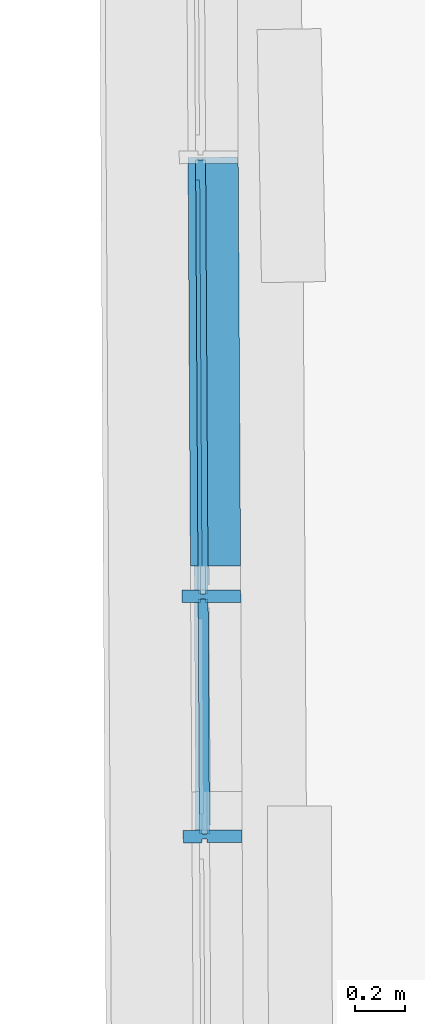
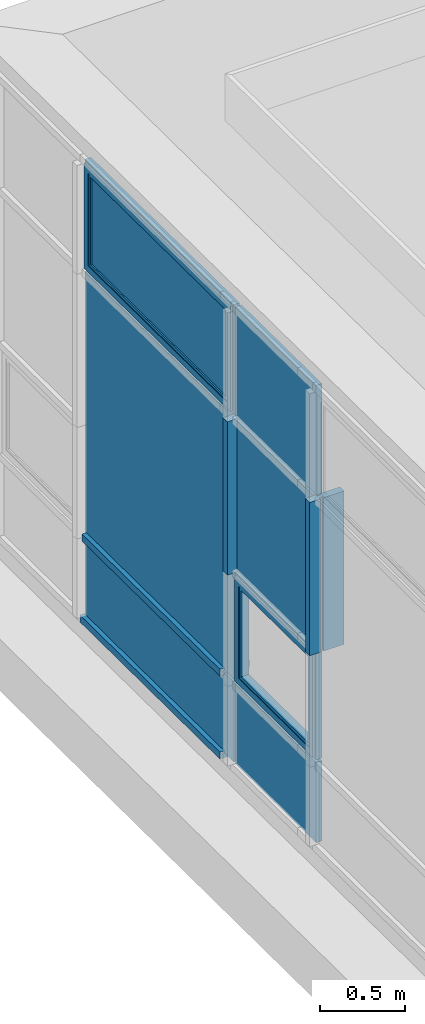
# One storey, part 100 of 158: 12 building element parts, 1 element without a shape of its own.
"""IFC2X3 building model written with IfcOpenShell, lengths in metres."""

import ifcopenshell
import ifcopenshell.guid

model = None  # the IFC model being written
_history = None  # IfcOwnerHistory: only IFC2X3 demands one
_inside = {}  # id of a spatial element -> (the spatial element, [elements in it])
_under = {}  # id of a project, library or spatial element -> (it, [spatial elements below it])
_declared = {}  # id of a project -> (the project, [libraries it declares])
_typed = {}  # id of a type object -> (the type object, [elements of that type])
_made_of = {}  # id of a material, layer set ... -> (it, [elements and type objects made of it])


def new_model(schema):
    """Start an empty IFC model of exactly this schema.

    Asked for "IFC4X3", IfcOpenShell would pick the latest addendum, in which some entities
    have other attributes; the version numbers below select the first issue.
    IFC2X3 requires an IfcOwnerHistory on every rooted entity: one is made here for all.
    """
    global model, _history
    if schema == "IFC4X3":
        model = ifcopenshell.file(schema_version=(4, 3, 0, 0))
    else:
        model = ifcopenshell.file(schema=schema)
    _inside.clear()
    _under.clear()
    _declared.clear()
    _typed.clear()
    _made_of.clear()
    _history = None
    if model.schema == "IFC2X3":
        org = make("IfcOrganization", Name="unknown")
        user = make(
            "IfcPersonAndOrganization",
            ThePerson=make("IfcPerson", FamilyName="unknown"),
            TheOrganization=org,
        )
        app = make(
            "IfcApplication",
            ApplicationDeveloper=org,
            Version="unknown",
            ApplicationFullName="unknown",
            ApplicationIdentifier="unknown",
        )
        _history = make(
            "IfcOwnerHistory",
            OwningUser=user,
            OwningApplication=app,
            ChangeAction="ADDED",
            CreationDate=0,
        )
    return model


def make(cls, **values):
    """One entity of the class cls with the attributes given. An attribute that is None is left unset."""
    return model.create_entity(
        cls, **{name: value for name, value in values.items() if value is not None}
    )


def entity(cls, *values):
    """Any entity or typed value of the class cls, its attributes in the order of the schema. None: left unset."""
    e = model.create_entity(cls)
    for i, value in enumerate(values):
        if value is not None:
            e[i] = value
    return e


def rooted(cls, **values):
    """An entity with a GlobalId (a new one), such as an element, a storey or a relation."""
    return make(cls, GlobalId=ifcopenshell.guid.new(), OwnerHistory=_history, **values)


def si_unit(unit_type, name, prefix=None):
    """IfcSIUnit, for example si_unit("LENGTHUNIT", "METRE", prefix="MILLI")."""
    return make("IfcSIUnit", UnitType=unit_type, Prefix=prefix, Name=name)


def converted_unit(unit_type, name, factor, base, dimensions=None, offset=None):
    """IfcConversionBasedUnit, such as the inch: factor (a typed value) times the base unit."""
    return make(
        "IfcConversionBasedUnit"
        if offset is None
        else "IfcConversionBasedUnitWithOffset",
        ConversionOffset=offset,
        Dimensions=None
        if dimensions is None
        else entity("IfcDimensionalExponents", *dimensions),
        UnitType=unit_type,
        Name=name,
        ConversionFactor=make(
            "IfcMeasureWithUnit", ValueComponent=factor, UnitComponent=base
        ),
    )


def derived_unit(unit_type, elements):
    """IfcDerivedUnit: a product of units, each with its exponent."""
    return make(
        "IfcDerivedUnit",
        Elements=[
            make("IfcDerivedUnitElement", Unit=unit, Exponent=power)
            for unit, power in elements
        ],
        UnitType=unit_type,
    )


def money_unit(currency):
    """IfcMonetaryUnit."""
    return make("IfcMonetaryUnit", Currency=currency)


def assignment(units):
    """IfcUnitAssignment: the units of a project."""
    return None if units is None else make("IfcUnitAssignment", Units=units)


def point(xyz):
    """IfcCartesianPoint."""
    return None if xyz is None else make("IfcCartesianPoint", Coordinates=xyz)


def direction(xyz):
    """IfcDirection."""
    return None if xyz is None else make("IfcDirection", DirectionRatios=xyz)


def frame(location, z_axis=None, x_axis=None):
    """IfcAxis2Placement3D, a coordinate frame: its origin and axes. An axis left out is left unset."""
    return make(
        "IfcAxis2Placement3D",
        Location=point(location),
        Axis=direction(z_axis),
        RefDirection=direction(x_axis),
    )


def origin_with_axes():
    """The frame at (0, 0, 0) with the z axis (0, 0, 1) and the x axis (1, 0, 0) written out."""
    return frame((0.0, 0.0, 0.0), z_axis=(0.0, 0.0, 1.0), x_axis=(1.0, 0.0, 0.0))


def place(relative_to, where):
    """IfcLocalPlacement: puts the frame where relative to a parent placement (None: the world)."""
    return make(
        "IfcLocalPlacement", PlacementRelTo=relative_to, RelativePlacement=where
    )


def context(
    kind, dimensions, precision=None, world=None, true_north=None, identifier=None
):
    """IfcGeometricRepresentationContext, for example the 3D "Model" context."""
    return make(
        "IfcGeometricRepresentationContext",
        ContextIdentifier=identifier,
        ContextType=kind,
        CoordinateSpaceDimension=dimensions,
        Precision=precision,
        WorldCoordinateSystem=world,
        TrueNorth=true_north,
    )


def subcontext(parent, identifier, kind, view, scale=None):
    """IfcGeometricRepresentationSubContext, for example "Body" below "Model"."""
    return make(
        "IfcGeometricRepresentationSubContext",
        ContextIdentifier=identifier,
        ContextType=kind,
        ParentContext=parent,
        TargetScale=scale,
        TargetView=view,
    )


def project(units=None, contexts=None):
    """IfcProject with its units and contexts."""
    return rooted(
        "IfcProject",
        Name="project",
        RepresentationContexts=contexts,
        UnitsInContext=assignment(units),
    )


def spatial(cls, under=None, at=None, **own):
    """A site, building, storey or space (cls), placed at a placement, below another one or the project."""
    s = rooted(cls, ObjectPlacement=at, **own)
    if under is not None:
        _under.setdefault(under.id(), (under, []))[1].append(s)
    return s


def faces_of(points, faces, orient=None, outer=None):
    """IfcFace entities. A face is a list of loops; a loop is a list of indices into points, from 0.

    orient and outer hold one flag for each loop. By default every Orientation is true, the
    first loop of a face is its IfcFaceOuterBound and the others are IfcFaceBound.
    """
    made = []
    for i, loops in enumerate(faces):
        bounds = []
        for j, loop in enumerate(loops):
            is_outer = j == 0 if outer is None else outer[i][j]
            bounds.append(
                make(
                    "IfcFaceOuterBound" if is_outer else "IfcFaceBound",
                    Bound=make("IfcPolyLoop", Polygon=[points[k] for k in loop]),
                    Orientation=True if orient is None else orient[i][j],
                )
            )
        made.append(make("IfcFace", Bounds=bounds))
    return made


def faceted_brep(points, faces, orient=None, outer=None, voids=None):
    """IfcFacetedBrep: a solid bounded by flat faces; with voids (closed shells), ...WithVoids."""
    shared = [point(p) for p in points]
    hull = make("IfcClosedShell", CfsFaces=faces_of(shared, faces, orient, outer))
    if voids is None:
        return make("IfcFacetedBrep", Outer=hull)
    return make(
        "IfcFacetedBrepWithVoids",
        Outer=hull,
        Voids=[
            make(cls, CfsFaces=faces_of(shared, fs, o, b)) for cls, fs, o, b in voids
        ],
    )


def shape(context_of_items, identifier, shape_type, items):
    """IfcShapeRepresentation: the items that make up one representation, for example the "Body"."""
    return make(
        "IfcShapeRepresentation",
        ContextOfItems=context_of_items,
        RepresentationIdentifier=identifier,
        RepresentationType=shape_type,
        Items=items,
    )


def material(Name=None, Category=None):
    """IfcMaterial."""
    return make("IfcMaterial", Name=Name, Category=Category)


def made_of(thing, what):
    """Note that an element or type object is made of a material, layer set ...; save() writes the relation."""
    if what is not None:
        _made_of.setdefault(what.id(), (what, []))[1].append(thing)
    return thing


def type_object(cls, material=None, **own):
    """A type object (cls), such as IfcWallType, which elements share."""
    return made_of(rooted(cls, **own), material)


def element(
    cls,
    number,
    at=None,
    inside=None,
    cuts=None,
    type_object=None,
    material=None,
    context=None,
    identifier="Body",
    shape_type=None,
    held_by="IfcProductDefinitionShape",
    body=None,
    shapes=None,
    **own,
):
    """One element of the class cls, such as IfcWall. Its Tag is "e" and its number.

    at: its placement. inside: the storey or other place that contains it. cuts: it is an
    opening in that element (IfcRelVoidsElement). A single representation is given by context,
    identifier, shape_type and body (its items); several are given by shapes. held_by: the class
    of the entity that holds the representations. save() writes the other relations.
    """
    e = rooted(cls, Tag="e%d" % number, ObjectPlacement=at, **own)
    if body is not None:
        shapes = [shape(context, identifier, shape_type, body)]
    if shapes is not None:
        e.Representation = make(held_by, Representations=shapes)
    if inside is not None:
        _inside.setdefault(inside.id(), (inside, []))[1].append(e)
    if cuts is not None:
        rooted(
            "IfcRelVoidsElement", RelatingBuildingElement=cuts, RelatedOpeningElement=e
        )
    if type_object is not None:
        _typed.setdefault(type_object.id(), (type_object, []))[1].append(e)
    return made_of(e, material)


def aggregate(whole, parts):
    """IfcRelAggregates: a whole, such as a stair, and the parts it consists of."""
    return rooted("IfcRelAggregates", RelatingObject=whole, RelatedObjects=parts)


def save(model, path):
    """Write the relations noted so far, then the file.

    IfcRelAggregates (storeys below a building ...), IfcRelContainedInSpatialStructure (elements
    in a storey), IfcRelDefinesByType, IfcRelAssociatesMaterial and IfcRelDeclares: one each for
    every whole, place, type object, material and project.
    """
    for whole, parts in _under.values():
        aggregate(whole, parts)
    for where, things in _inside.values():
        rooted(
            "IfcRelContainedInSpatialStructure",
            RelatedElements=things,
            RelatingStructure=where,
        )
    for kind, things in _typed.values():
        rooted("IfcRelDefinesByType", RelatedObjects=things, RelatingType=kind)
    for what, things in _made_of.values():
        rooted("IfcRelAssociatesMaterial", RelatedObjects=things, RelatingMaterial=what)
    for by, libraries in _declared.values():
        rooted("IfcRelDeclares", RelatingContext=by, RelatedDefinitions=libraries)
    model.write(path)


model = new_model("IFC2X3")

# Units and contexts
model_context = context("Model", 3, precision=1e-05, world=origin_with_axes(), true_north=direction((0.0, 1.0)))
body_context = subcontext(model_context, "Body", "Model", "MODEL_VIEW")
ifc_project = project(units=[si_unit("LENGTHUNIT", "METRE"), si_unit("AREAUNIT", "SQUARE_METRE"), si_unit("VOLUMEUNIT", "CUBIC_METRE"), converted_unit("PLANEANGLEUNIT", "DEGREE", entity("IfcPlaneAngleMeasure", 0.0174532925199), si_unit("PLANEANGLEUNIT", "RADIAN"), dimensions=[0, 0, 0, 0, 0, 0, 0]), money_unit("EUR"), converted_unit("TIMEUNIT", "Year", entity("IfcTimeMeasure", 31556926.0), si_unit("TIMEUNIT", "SECOND"), dimensions=[0, 0, 1, 0, 0, 0, 0]), si_unit("MASSUNIT", "GRAM", prefix="KILO"), si_unit("THERMODYNAMICTEMPERATUREUNIT", "DEGREE_CELSIUS"), si_unit("LUMINOUSINTENSITYUNIT", "LUMEN"), si_unit("ENERGYUNIT", "JOULE", prefix="MEGA"), derived_unit("THERMALCONDUCTANCEUNIT", [(si_unit("POWERUNIT", "WATT"), 1), (si_unit("LENGTHUNIT", "METRE"), -1), (si_unit("THERMODYNAMICTEMPERATUREUNIT", "KELVIN"), -1)]), derived_unit("SPECIFICHEATCAPACITYUNIT", [(si_unit("ENERGYUNIT", "JOULE"), 1), (si_unit("MASSUNIT", "GRAM", prefix="KILO"), -1), (si_unit("THERMODYNAMICTEMPERATUREUNIT", "KELVIN"), -1)]), derived_unit("MASSDENSITYUNIT", [(si_unit("MASSUNIT", "GRAM", prefix="KILO"), 1), (si_unit("VOLUMEUNIT", "CUBIC_METRE"), -1)])], contexts=[model_context])

# Site, building, storey
site_placement = place(None, origin_with_axes())
site = spatial("IfcSite", under=ifc_project, at=site_placement, Name="Gelände", CompositionType="ELEMENT")
building_placement = place(site_placement, origin_with_axes())
building = spatial("IfcBuilding", under=site, at=building_placement, Name="Gebäude", CompositionType="ELEMENT")
storey_placement = place(building_placement, origin_with_axes())
storey = spatial("IfcBuildingStorey", under=building, at=storey_placement, Name="ERDGESCHOSS", CompositionType="ELEMENT", Elevation=0.0)

# Proxy, building element parts
building_element_proxy_type = type_object("IfcBuildingElementProxyType", Name="Fassadentyp", PredefinedType="NOTDEFINED")
proxy_placement = place(storey_placement, frame((-34.889376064, 47.589579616, 1.34043902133), z_axis=(0.0, 0.0, 1.0), x_axis=(1.0, 0.0, 0.0)))
proxy = element("IfcBuildingElementProxy", 1, at=proxy_placement, inside=storey, type_object=building_element_proxy_type, Name="Fassade-002")
ifc_material_1 = material(Name="53_Metall, Aluminium")
building_element_part_1_placement = place(proxy_placement, origin_with_axes())
building_element_part_1 = element("IfcBuildingElementPart", 2, at=building_element_part_1_placement, material=ifc_material_1, Name="53_Metall, Aluminium", context=body_context, shape_type="Brep", body=[
    faceted_brep([(-0.0485460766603, 3.16217038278, 0.645000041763), (-0.04322409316, 2.25472849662, 0.645000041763), (-0.048224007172, 2.25469917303, 0.645000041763), (-0.0535459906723, 3.16214105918, 0.645000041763), (-0.0482821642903, 3.11717115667, 0.690000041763), (-0.0434880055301, 2.29972772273, 0.690000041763), (-0.048487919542, 2.29969839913, 0.690000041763), (-0.0532820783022, 3.11714183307, 0.690000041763)], [[[0, 1, 2, 3]], [[0, 4, 5, 1]], [[1, 5, 6, 2]], [[3, 2, 6, 7]], [[4, 0, 3, 7]], [[5, 4, 7, 6]]]),
    faceted_brep([(-0.04322409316, 2.25472849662, 0.645000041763), (-0.04322409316, 2.25472849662, 1.395000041), (-0.048224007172, 2.25469917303, 1.395000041), (-0.048224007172, 2.25469917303, 0.645000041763), (-0.0434880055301, 2.29972772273, 0.690000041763), (-0.0434880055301, 2.29972772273, 1.350000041), (-0.048487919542, 2.29969839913, 1.350000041), (-0.048487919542, 2.29969839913, 0.690000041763)], [[[0, 1, 2, 3]], [[0, 4, 5, 1]], [[1, 5, 6, 2]], [[3, 2, 6, 7]], [[4, 0, 3, 7]], [[5, 4, 7, 6]]]),
    faceted_brep([(-0.0485460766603, 3.16217038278, 1.395000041), (-0.0482821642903, 3.11717115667, 1.350000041), (-0.0532820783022, 3.11714183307, 1.350000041), (-0.0535459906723, 3.16214105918, 1.395000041), (-0.04322409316, 2.25472849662, 1.395000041), (-0.0434880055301, 2.29972772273, 1.350000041), (-0.048487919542, 2.29969839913, 1.350000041), (-0.048224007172, 2.25469917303, 1.395000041)], [[[0, 1, 2, 3]], [[0, 4, 5, 1]], [[1, 5, 6, 2]], [[3, 2, 6, 7]], [[4, 0, 3, 7]], [[5, 4, 7, 6]]]),
    faceted_brep([(-0.0485460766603, 3.16217038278, 0.645000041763), (-0.0482821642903, 3.11717115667, 0.690000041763), (-0.0532820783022, 3.11714183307, 0.690000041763), (-0.0535459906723, 3.16214105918, 0.645000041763), (-0.0485460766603, 3.16217038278, 1.395000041), (-0.0482821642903, 3.11717115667, 1.350000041), (-0.0532820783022, 3.11714183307, 1.350000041), (-0.0535459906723, 3.16214105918, 1.395000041)], [[[0, 1, 2, 3]], [[0, 4, 5, 1]], [[1, 5, 6, 2]], [[3, 2, 6, 7]], [[4, 0, 3, 7]], [[5, 4, 7, 6]]]),
    faceted_brep([(0.00145306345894, 3.16246361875, 0.645000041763), (0.00677504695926, 2.25502173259, 0.645000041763), (-0.04322409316, 2.25472849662, 0.645000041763), (-0.0485460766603, 3.16217038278, 0.645000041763), (0.00157035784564, 3.1424639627, 0.665000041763), (0.00665775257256, 2.27502138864, 0.665000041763), (-0.0433413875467, 2.27472815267, 0.665000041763), (-0.0484287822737, 3.14217072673, 0.665000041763)], [[[0, 1, 2, 3]], [[0, 4, 5, 1]], [[1, 5, 6, 2]], [[3, 2, 6, 7]], [[4, 0, 3, 7]], [[5, 4, 7, 6]]]),
    faceted_brep([(0.00677504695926, 2.25502173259, 0.645000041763), (0.00677504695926, 2.25502173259, 1.395000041), (-0.04322409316, 2.25472849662, 1.395000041), (-0.04322409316, 2.25472849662, 0.645000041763), (0.00665775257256, 2.27502138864, 0.665000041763), (0.00665775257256, 2.27502138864, 1.375000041), (-0.0433413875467, 2.27472815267, 1.375000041), (-0.0433413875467, 2.27472815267, 0.665000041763)], [[[0, 1, 2, 3]], [[0, 4, 5, 1]], [[1, 5, 6, 2]], [[3, 2, 6, 7]], [[4, 0, 3, 7]], [[5, 4, 7, 6]]]),
    faceted_brep([(0.00145306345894, 3.16246361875, 1.395000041), (0.00157035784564, 3.1424639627, 1.375000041), (-0.0484287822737, 3.14217072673, 1.375000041), (-0.0485460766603, 3.16217038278, 1.395000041), (0.00677504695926, 2.25502173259, 1.395000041), (0.00665775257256, 2.27502138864, 1.375000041), (-0.0433413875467, 2.27472815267, 1.375000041), (-0.04322409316, 2.25472849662, 1.395000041)], [[[0, 1, 2, 3]], [[0, 4, 5, 1]], [[1, 5, 6, 2]], [[3, 2, 6, 7]], [[4, 0, 3, 7]], [[5, 4, 7, 6]]]),
    faceted_brep([(0.00145306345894, 3.16246361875, 0.645000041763), (0.00157035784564, 3.1424639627, 0.665000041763), (-0.0484287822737, 3.14217072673, 0.665000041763), (-0.0485460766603, 3.16217038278, 0.645000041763), (0.00145306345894, 3.16246361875, 1.395000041), (0.00157035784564, 3.1424639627, 1.375000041), (-0.0484287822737, 3.14217072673, 1.375000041), (-0.0485460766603, 3.16217038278, 1.395000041)], [[[0, 1, 2, 3]], [[0, 4, 5, 1]], [[1, 5, 6, 2]], [[3, 2, 6, 7]], [[4, 0, 3, 7]], [[5, 4, 7, 6]]]),
    faceted_brep([(0.00136509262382, 3.17746336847, 0.630000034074), (0.00686301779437, 2.24002198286, 0.630000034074), (-0.0331362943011, 2.23978739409, 0.630000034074), (-0.0386342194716, 3.1772287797, 0.630000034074), (0.00145306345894, 3.16246361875, 0.645000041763), (0.00677504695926, 2.25502173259, 0.645000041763), (-0.0332242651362, 2.25478714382, 0.645000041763), (-0.0385462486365, 3.16222902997, 0.645000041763)], [[[0, 1, 2, 3]], [[0, 4, 5, 1]], [[1, 5, 6, 2]], [[3, 2, 6, 7]], [[4, 0, 3, 7]], [[5, 4, 7, 6]]]),
    faceted_brep([(0.00686301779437, 2.24002198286, 0.630000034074), (0.00686301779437, 2.24002198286, 1.41000003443), (-0.0331362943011, 2.23978739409, 1.41000003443), (-0.0331362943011, 2.23978739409, 0.630000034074), (0.00677504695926, 2.25502173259, 0.645000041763), (0.00677504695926, 2.25502173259, 1.395000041), (-0.0332242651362, 2.25478714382, 1.395000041), (-0.0332242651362, 2.25478714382, 0.645000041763)], [[[0, 1, 2, 3]], [[0, 4, 5, 1]], [[1, 5, 6, 2]], [[3, 2, 6, 7]], [[4, 0, 3, 7]], [[5, 4, 7, 6]]]),
    faceted_brep([(0.00686301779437, 2.24002198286, 1.41000003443), (0.00136509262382, 3.17746336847, 1.41000003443), (-0.0386342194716, 3.1772287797, 1.41000003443), (-0.0331362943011, 2.23978739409, 1.41000003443), (0.00677504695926, 2.25502173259, 1.395000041), (0.00145306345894, 3.16246361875, 1.395000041), (-0.0385462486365, 3.16222902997, 1.395000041), (-0.0332242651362, 2.25478714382, 1.395000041)], [[[0, 1, 2, 3]], [[0, 4, 5, 1]], [[1, 5, 6, 2]], [[3, 2, 6, 7]], [[4, 0, 3, 7]], [[5, 4, 7, 6]]]),
    faceted_brep([(0.00136509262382, 3.17746336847, 1.41000003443), (0.00136509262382, 3.17746336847, 0.630000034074), (-0.0386342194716, 3.1772287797, 0.630000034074), (-0.0386342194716, 3.1772287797, 1.41000003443), (0.00145306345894, 3.16246361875, 1.395000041), (0.00145306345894, 3.16246361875, 0.645000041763), (-0.0385462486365, 3.16222902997, 0.645000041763), (-0.0385462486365, 3.16222902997, 1.395000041)], [[[0, 1, 2, 3]], [[0, 4, 5, 1]], [[1, 5, 6, 2]], [[3, 2, 6, 7]], [[4, 0, 3, 7]], [[5, 4, 7, 6]]]),
    faceted_brep([(-0.0481648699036, 3.09717150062, 0.710000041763), (0.00683418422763, 3.09749406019, 0.710000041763), (0.00683418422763, 3.09749406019, 1.330000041), (-0.0481648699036, 3.09717150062, 1.330000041), (-0.0484287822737, 3.14217072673, 0.665000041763), (0.00657027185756, 3.14249328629, 0.665000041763), (0.00657027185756, 3.14249328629, 1.375000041), (-0.0484287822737, 3.14217072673, 1.375000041)], [[[0, 1, 2, 3]], [[4, 5, 1, 0]], [[1, 5, 6, 2]], [[3, 2, 6, 7]], [[0, 3, 7, 4]], [[7, 6, 5, 4]]]),
    faceted_brep([(-0.0433413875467, 2.27472815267, 0.665000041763), (0.0116576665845, 2.27505071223, 0.665000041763), (0.0116576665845, 2.27505071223, 1.375000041), (-0.0433413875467, 2.27472815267, 1.375000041), (-0.0436052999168, 2.31972737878, 0.710000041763), (0.0113937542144, 2.32004993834, 0.710000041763), (0.0113937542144, 2.32004993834, 1.330000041), (-0.0436052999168, 2.31972737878, 1.330000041)], [[[0, 1, 2, 3]], [[4, 5, 1, 0]], [[1, 5, 6, 2]], [[3, 2, 6, 7]], [[0, 3, 7, 4]], [[7, 6, 5, 4]]]),
    faceted_brep([(-0.0433413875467, 2.27472815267, 0.665000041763), (0.0116576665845, 2.27505071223, 0.665000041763), (0.0113937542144, 2.32004993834, 0.710000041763), (-0.0436052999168, 2.31972737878, 0.710000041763), (-0.0484287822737, 3.14217072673, 0.665000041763), (0.00657027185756, 3.14249328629, 0.665000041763), (0.00683418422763, 3.09749406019, 0.710000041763), (-0.0481648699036, 3.09717150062, 0.710000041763)], [[[0, 1, 2, 3]], [[4, 5, 1, 0]], [[1, 5, 6, 2]], [[3, 2, 6, 7]], [[0, 3, 7, 4]], [[7, 6, 5, 4]]]),
    faceted_brep([(-0.0484287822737, 3.14217072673, 1.375000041), (0.00657027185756, 3.14249328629, 1.375000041), (0.00683418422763, 3.09749406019, 1.330000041), (-0.0481648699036, 3.09717150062, 1.330000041), (-0.0433413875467, 2.27472815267, 1.375000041), (0.0116576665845, 2.27505071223, 1.375000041), (0.0113937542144, 2.32004993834, 1.330000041), (-0.0436052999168, 2.31972737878, 1.330000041)], [[[0, 1, 2, 3]], [[4, 5, 1, 0]], [[1, 5, 6, 2]], [[3, 2, 6, 7]], [[0, 3, 7, 4]], [[7, 6, 5, 4]]]),
])
ifc_material_2 = material(Name="45_Glas, Normalglas")
building_element_part_2_placement = place(proxy_placement, origin_with_axes())
building_element_part_2 = element("IfcBuildingElementPart", 3, at=building_element_part_2_placement, material=ifc_material_2, Name="45_Glas, Normalglas", context=body_context, shape_type="Brep", body=[
    faceted_brep([(0.00686301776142, 2.24002198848, 0.610000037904), (0.00587489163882, 2.40850560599, 0.610000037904), (-0.0341244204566, 2.40827101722, 0.610000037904), (-0.033136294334, 2.23978739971, 0.610000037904), (0.00686301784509, 2.24002197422, 0.0349999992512), (0.00587489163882, 2.40850560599, 0.0349999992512), (0.00136509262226, 3.17746336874, 0.0349999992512), (0.00136509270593, 3.17746335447, 0.610000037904), (-0.0386342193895, 3.1772287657, 0.610000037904), (-0.0386342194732, 3.17722877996, 0.0349999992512), (-0.0341244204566, 2.40827101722, 0.0349999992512), (-0.0331362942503, 2.23978738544, 0.0349999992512)], [[[0, 1, 2, 3]], [[0, 4, 5, 6, 7, 1]], [[1, 7, 8, 2]], [[3, 2, 8, 9, 10, 11]], [[4, 0, 3, 11]], [[5, 4, 11, 10]], [[6, 5, 10, 9]], [[7, 6, 9, 8]]]),
])
building_element_part_3_placement = place(proxy_placement, origin_with_axes())
building_element_part_3 = element("IfcBuildingElementPart", 4, at=building_element_part_3_placement, material=ifc_material_2, Name="45_Glas, Normalglas", context=body_context, shape_type="Brep", body=[
    faceted_brep([(0.00686301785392, 2.24002197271, 2.51000003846), (0.00587489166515, 2.4085056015, 2.51000003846), (-0.0341244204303, 2.40827101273, 2.51000003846), (-0.0331362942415, 2.23978738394, 2.51000003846), (0.00686301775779, 2.2400219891, 1.43000003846), (0.00587489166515, 2.4085056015, 1.43000003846), (0.00136509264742, 3.17746336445, 1.43000003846), (0.00136509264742, 3.17746336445, 2.51000003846), (-0.038634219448, 3.17722877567, 2.51000003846), (-0.038634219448, 3.17722877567, 1.43000003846), (-0.0341244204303, 2.40827101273, 1.43000003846), (-0.0331362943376, 2.23978740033, 1.43000003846)], [[[0, 1, 2, 3]], [[0, 4, 5, 6, 7, 1]], [[1, 7, 8, 2]], [[3, 2, 8, 9, 10, 11]], [[4, 0, 3, 11]], [[5, 4, 11, 10]], [[6, 5, 10, 9]], [[7, 6, 9, 8]]]),
])
building_element_part_4_placement = place(proxy_placement, origin_with_axes())
building_element_part_4 = element("IfcBuildingElementPart", 5, at=building_element_part_4_placement, material=ifc_material_2, Name="45_Glas, Normalglas", context=body_context, shape_type="Brep", body=[
    faceted_brep([(0.00124779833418, 3.19746300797, 2.51000004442), (0.000596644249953, 3.30849012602, 2.51000004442), (-0.0394026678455, 3.30825553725, 2.51000004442), (-0.0387515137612, 3.19722841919, 2.51000004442), (0.00124779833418, 3.19746300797, 1.42000004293), (0.00124779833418, 3.19746300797, 0.630000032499), (0.000596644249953, 3.30849012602, 0.630000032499), (-0.00889954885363, 4.9276690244, 0.630000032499), (-0.00889954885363, 4.9276690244, 1.42000004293), (-0.00889954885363, 4.9276690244, 2.51000004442), (-0.0488988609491, 4.92743443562, 2.51000004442), (-0.0488988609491, 4.92743443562, 1.42000004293), (-0.0488988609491, 4.92743443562, 0.630000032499), (-0.0394026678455, 3.30825553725, 0.630000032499), (-0.0387515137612, 3.19722841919, 0.630000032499), (-0.0387515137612, 3.19722841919, 1.42000004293)], [[[0, 1, 2, 3]], [[0, 4, 5, 6, 7, 8, 9, 1]], [[1, 9, 10, 2]], [[3, 2, 10, 11, 12, 13, 14, 15]], [[4, 0, 3, 15]], [[5, 4, 15, 14]], [[6, 5, 14, 13]], [[7, 6, 13, 12]], [[8, 7, 12, 11]], [[9, 8, 11, 10]]]),
])
building_element_part_5_placement = place(proxy_placement, origin_with_axes())
building_element_part_5 = element("IfcBuildingElementPart", 6, at=building_element_part_5_placement, material=ifc_material_2, Name="45_Glas, Normalglas", context=body_context, shape_type="Brep", body=[
    faceted_brep([(0.00124779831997, 3.19746301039, 0.610000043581), (0.000596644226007, 3.30849013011, 0.610000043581), (-0.0394026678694, 3.30825554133, 0.610000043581), (-0.0387515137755, 3.19722842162, 0.610000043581), (0.00124779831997, 3.19746301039, 0.0349999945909), (0.000596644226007, 3.30849013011, 0.0349999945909), (-0.00889954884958, 4.92766902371, 0.0349999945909), (-0.00889954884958, 4.92766902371, 0.610000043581), (-0.048898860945, 4.92743443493, 0.610000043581), (-0.048898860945, 4.92743443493, 0.0349999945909), (-0.0394026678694, 3.30825554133, 0.0349999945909), (-0.0387515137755, 3.19722842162, 0.0349999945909)], [[[0, 1, 2, 3]], [[0, 4, 5, 6, 7, 1]], [[1, 7, 8, 2]], [[3, 2, 8, 9, 10, 11]], [[4, 0, 3, 11]], [[5, 4, 11, 10]], [[6, 5, 10, 9]], [[7, 6, 9, 8]]]),
])
building_element_part_6_placement = place(proxy_placement, origin_with_axes())
building_element_part_6 = element("IfcBuildingElementPart", 7, at=building_element_part_6_placement, material=ifc_material_1, Name="53_Metall, Aluminium", context=body_context, shape_type="Brep", body=[
    faceted_brep([(-0.0588107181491, 4.91237604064, 2.54500003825), (-0.0488393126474, 3.21216952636, 2.54500003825), (-0.0538392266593, 3.21214020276, 2.54500003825), (-0.0638106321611, 4.91234671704, 2.54500003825), (-0.0585468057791, 4.86737681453, 2.59000003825), (-0.0491032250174, 3.25716875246, 2.59000003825), (-0.0541031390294, 3.25713942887, 2.59000003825), (-0.063546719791, 4.86734749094, 2.59000003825)], [[[0, 1, 2, 3]], [[0, 4, 5, 1]], [[1, 5, 6, 2]], [[3, 2, 6, 7]], [[4, 0, 3, 7]], [[5, 4, 7, 6]]]),
    faceted_brep([(-0.0488393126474, 3.21216952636, 2.54500003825), (-0.0488393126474, 3.21216952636, 3.29999991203), (-0.0538392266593, 3.21214020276, 3.29999991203), (-0.0538392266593, 3.21214020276, 2.54500003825), (-0.0491032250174, 3.25716875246, 2.59000003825), (-0.0491032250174, 3.25716875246, 3.25499991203), (-0.0541031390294, 3.25713942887, 3.25499991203), (-0.0541031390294, 3.25713942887, 2.59000003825)], [[[0, 1, 2, 3]], [[0, 4, 5, 1]], [[1, 5, 6, 2]], [[3, 2, 6, 7]], [[4, 0, 3, 7]], [[5, 4, 7, 6]]]),
    faceted_brep([(-0.0588107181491, 4.91237604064, 3.29999991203), (-0.0585468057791, 4.86737681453, 3.25499991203), (-0.063546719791, 4.86734749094, 3.25499991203), (-0.0638106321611, 4.91234671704, 3.29999991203), (-0.0488393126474, 3.21216952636, 3.29999991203), (-0.0491032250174, 3.25716875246, 3.25499991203), (-0.0541031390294, 3.25713942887, 3.25499991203), (-0.0538392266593, 3.21214020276, 3.29999991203)], [[[0, 1, 2, 3]], [[0, 4, 5, 1]], [[1, 5, 6, 2]], [[3, 2, 6, 7]], [[4, 0, 3, 7]], [[5, 4, 7, 6]]]),
    faceted_brep([(-0.0588107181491, 4.91237604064, 2.54500003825), (-0.0585468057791, 4.86737681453, 2.59000003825), (-0.063546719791, 4.86734749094, 2.59000003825), (-0.0638106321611, 4.91234671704, 2.54500003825), (-0.0588107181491, 4.91237604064, 3.29999991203), (-0.0585468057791, 4.86737681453, 3.25499991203), (-0.063546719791, 4.86734749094, 3.25499991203), (-0.0638106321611, 4.91234671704, 3.29999991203)], [[[0, 1, 2, 3]], [[0, 4, 5, 1]], [[1, 5, 6, 2]], [[3, 2, 6, 7]], [[4, 0, 3, 7]], [[5, 4, 7, 6]]]),
    faceted_brep([(-0.00881157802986, 4.91266927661, 2.54500003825), (0.00115982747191, 3.21246276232, 2.54500003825), (-0.0488393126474, 3.21216952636, 2.54500003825), (-0.0588107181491, 4.91237604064, 2.54500003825), (-0.00869428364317, 4.89266962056, 2.56500003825), (0.00104253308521, 3.23246241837, 2.56500003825), (-0.0489566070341, 3.2321691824, 2.56500003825), (-0.0586934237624, 4.89237638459, 2.56500003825)], [[[0, 1, 2, 3]], [[0, 4, 5, 1]], [[1, 5, 6, 2]], [[3, 2, 6, 7]], [[4, 0, 3, 7]], [[5, 4, 7, 6]]]),
    faceted_brep([(0.00115982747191, 3.21246276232, 2.54500003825), (0.00115982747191, 3.21246276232, 3.29999991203), (-0.0488393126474, 3.21216952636, 3.29999991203), (-0.0488393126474, 3.21216952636, 2.54500003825), (0.00104253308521, 3.23246241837, 2.56500003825), (0.00104253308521, 3.23246241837, 3.27999991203), (-0.0489566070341, 3.2321691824, 3.27999991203), (-0.0489566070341, 3.2321691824, 2.56500003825)], [[[0, 1, 2, 3]], [[0, 4, 5, 1]], [[1, 5, 6, 2]], [[3, 2, 6, 7]], [[4, 0, 3, 7]], [[5, 4, 7, 6]]]),
    faceted_brep([(-0.00881157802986, 4.91266927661, 3.29999991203), (-0.00869428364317, 4.89266962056, 3.27999991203), (-0.0586934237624, 4.89237638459, 3.27999991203), (-0.0588107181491, 4.91237604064, 3.29999991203), (0.00115982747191, 3.21246276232, 3.29999991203), (0.00104253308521, 3.23246241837, 3.27999991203), (-0.0489566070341, 3.2321691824, 3.27999991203), (-0.0488393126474, 3.21216952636, 3.29999991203)], [[[0, 1, 2, 3]], [[0, 4, 5, 1]], [[1, 5, 6, 2]], [[3, 2, 6, 7]], [[4, 0, 3, 7]], [[5, 4, 7, 6]]]),
    faceted_brep([(-0.00881157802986, 4.91266927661, 2.54500003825), (-0.00869428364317, 4.89266962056, 2.56500003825), (-0.0586934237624, 4.89237638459, 2.56500003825), (-0.0588107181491, 4.91237604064, 2.54500003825), (-0.00881157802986, 4.91266927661, 3.29999991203), (-0.00869428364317, 4.89266962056, 3.27999991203), (-0.0586934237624, 4.89237638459, 3.27999991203), (-0.0588107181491, 4.91237604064, 3.29999991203)], [[[0, 1, 2, 3]], [[0, 4, 5, 1]], [[1, 5, 6, 2]], [[3, 2, 6, 7]], [[4, 0, 3, 7]], [[5, 4, 7, 6]]]),
    faceted_brep([(-0.00889954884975, 4.92766902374, 2.53000003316), (0.00124779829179, 3.1974630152, 2.53000003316), (-0.0387515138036, 3.19722842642, 2.53000003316), (-0.0488988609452, 4.92743443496, 2.53000003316), (-0.00881157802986, 4.91266927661, 2.54500003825), (0.00115982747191, 3.21246276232, 2.54500003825), (-0.0388394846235, 3.21222817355, 2.54500003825), (-0.0488108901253, 4.91243468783, 2.54500003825)], [[[0, 1, 2, 3]], [[0, 4, 5, 1]], [[1, 5, 6, 2]], [[3, 2, 6, 7]], [[4, 0, 3, 7]], [[5, 4, 7, 6]]]),
    faceted_brep([(0.00124779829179, 3.1974630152, 2.53000003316), (0.00124779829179, 3.1974630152, 3.31499991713), (-0.0387515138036, 3.19722842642, 3.31499991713), (-0.0387515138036, 3.19722842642, 2.53000003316), (0.00115982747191, 3.21246276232, 2.54500003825), (0.00115982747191, 3.21246276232, 3.29999991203), (-0.0388394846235, 3.21222817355, 3.29999991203), (-0.0388394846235, 3.21222817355, 2.54500003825)], [[[0, 1, 2, 3]], [[0, 4, 5, 1]], [[1, 5, 6, 2]], [[3, 2, 6, 7]], [[4, 0, 3, 7]], [[5, 4, 7, 6]]]),
    faceted_brep([(0.00124779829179, 3.1974630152, 3.31499991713), (-0.00889954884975, 4.92766902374, 3.31499991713), (-0.0488988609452, 4.92743443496, 3.31499991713), (-0.0387515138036, 3.19722842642, 3.31499991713), (0.00115982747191, 3.21246276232, 3.29999991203), (-0.00881157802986, 4.91266927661, 3.29999991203), (-0.0488108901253, 4.91243468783, 3.29999991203), (-0.0388394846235, 3.21222817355, 3.29999991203)], [[[0, 1, 2, 3]], [[0, 4, 5, 1]], [[1, 5, 6, 2]], [[3, 2, 6, 7]], [[4, 0, 3, 7]], [[5, 4, 7, 6]]]),
    faceted_brep([(-0.00889954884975, 4.92766902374, 3.31499991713), (-0.00889954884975, 4.92766902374, 2.53000003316), (-0.0488988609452, 4.92743443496, 2.53000003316), (-0.0488988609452, 4.92743443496, 3.31499991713), (-0.00881157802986, 4.91266927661, 3.29999991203), (-0.00881157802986, 4.91266927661, 2.54500003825), (-0.0488108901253, 4.91243468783, 2.54500003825), (-0.0488108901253, 4.91243468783, 3.29999991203)], [[[0, 1, 2, 3]], [[0, 4, 5, 1]], [[1, 5, 6, 2]], [[3, 2, 6, 7]], [[4, 0, 3, 7]], [[5, 4, 7, 6]]]),
    faceted_brep([(-0.0584295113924, 4.84737715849, 2.61000003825), (-0.00343045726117, 4.84769971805, 2.61000003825), (-0.00343045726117, 4.84769971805, 3.23499991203), (-0.0584295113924, 4.84737715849, 3.23499991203), (-0.0586934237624, 4.89237638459, 2.56500003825), (-0.00369436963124, 4.89269894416, 2.56500003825), (-0.00369436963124, 4.89269894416, 3.27999991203), (-0.0586934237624, 4.89237638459, 3.27999991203)], [[[0, 1, 2, 3]], [[4, 5, 1, 0]], [[1, 5, 6, 2]], [[3, 2, 6, 7]], [[0, 3, 7, 4]], [[7, 6, 5, 4]]]),
    faceted_brep([(-0.0489566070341, 3.2321691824, 2.56500003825), (0.00604244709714, 3.23249174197, 2.56500003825), (0.00604244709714, 3.23249174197, 3.27999991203), (-0.0489566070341, 3.2321691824, 3.27999991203), (-0.0492205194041, 3.27716840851, 2.61000003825), (0.00577853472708, 3.27749096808, 2.61000003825), (0.00577853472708, 3.27749096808, 3.23499991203), (-0.0492205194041, 3.27716840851, 3.23499991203)], [[[0, 1, 2, 3]], [[4, 5, 1, 0]], [[1, 5, 6, 2]], [[3, 2, 6, 7]], [[0, 3, 7, 4]], [[7, 6, 5, 4]]]),
    faceted_brep([(-0.0489566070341, 3.2321691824, 2.56500003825), (0.00604244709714, 3.23249174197, 2.56500003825), (0.00577853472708, 3.27749096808, 2.61000003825), (-0.0492205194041, 3.27716840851, 2.61000003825), (-0.0586934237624, 4.89237638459, 2.56500003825), (-0.00369436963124, 4.89269894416, 2.56500003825), (-0.00343045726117, 4.84769971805, 2.61000003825), (-0.0584295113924, 4.84737715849, 2.61000003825)], [[[0, 1, 2, 3]], [[4, 5, 1, 0]], [[1, 5, 6, 2]], [[3, 2, 6, 7]], [[0, 3, 7, 4]], [[7, 6, 5, 4]]]),
    faceted_brep([(-0.0586934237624, 4.89237638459, 3.27999991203), (-0.00369436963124, 4.89269894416, 3.27999991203), (-0.00343045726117, 4.84769971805, 3.23499991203), (-0.0584295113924, 4.84737715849, 3.23499991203), (-0.0489566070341, 3.2321691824, 3.27999991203), (0.00604244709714, 3.23249174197, 3.27999991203), (0.00577853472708, 3.27749096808, 3.23499991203), (-0.0492205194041, 3.27716840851, 3.23499991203)], [[[0, 1, 2, 3]], [[4, 5, 1, 0]], [[1, 5, 6, 2]], [[3, 2, 6, 7]], [[0, 3, 7, 4]], [[7, 6, 5, 4]]]),
])
building_element_part_7_placement = place(proxy_placement, origin_with_axes())
building_element_part_7 = element("IfcBuildingElementPart", 8, at=building_element_part_7_placement, material=ifc_material_2, Name="45_Glas, Normalglas", context=body_context, shape_type="Brep", body=[
    faceted_brep([(-0.0484296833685, 4.84743580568, 2.61000003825), (-0.0324299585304, 4.84752964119, 2.61000003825), (-0.0232209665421, 3.27732089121, 2.61000003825), (-0.0392206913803, 3.27722705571, 2.61000003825), (-0.0484296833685, 4.84743580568, 3.23499991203), (-0.0324299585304, 4.84752964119, 3.23499991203), (-0.0232209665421, 3.27732089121, 3.23499991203), (-0.0392206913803, 3.27722705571, 3.23499991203)], [[[0, 1, 2, 3]], [[4, 5, 1, 0]], [[1, 5, 6, 2]], [[3, 2, 6, 7]], [[0, 3, 7, 4]], [[7, 6, 5, 4]]]),
])
building_element_part_8_placement = place(proxy_placement, origin_with_axes())
building_element_part_8 = element("IfcBuildingElementPart", 9, at=building_element_part_8_placement, material=ifc_material_2, Name="45_Glas, Normalglas", context=body_context, shape_type="Brep", body=[
    faceted_brep([(0.00686301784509, 2.24002197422, 3.31499991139), (0.00587489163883, 2.40850560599, 3.31499991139), (-0.0341244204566, 2.40827101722, 3.31499991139), (-0.0331362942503, 2.23978738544, 3.31499991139), (0.00686301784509, 2.24002197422, 2.53000003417), (0.00587489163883, 2.40850560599, 2.53000003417), (0.00136509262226, 3.17746336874, 2.53000003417), (0.00136509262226, 3.17746336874, 3.31499991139), (-0.0386342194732, 3.17722877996, 3.31499991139), (-0.0386342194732, 3.17722877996, 2.53000003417), (-0.0341244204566, 2.40827101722, 2.53000003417), (-0.0331362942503, 2.23978738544, 2.53000003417)], [[[0, 1, 2, 3]], [[0, 4, 5, 6, 7, 1]], [[1, 7, 8, 2]], [[3, 2, 8, 9, 10, 11]], [[4, 0, 3, 11]], [[5, 4, 11, 10]], [[6, 5, 10, 9]], [[7, 6, 9, 8]]]),
])
building_element_part_9_placement = place(proxy_placement, origin_with_axes())
building_element_part_9 = element("IfcBuildingElementPart", 10, at=building_element_part_9_placement, material=ifc_material_1, Name="53_Metall, Aluminium", context=body_context, shape_type="Brep", body=[
    faceted_brep([(-0.00940318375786, 3.30843147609, 0.035), (-0.0294028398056, 3.30831418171, 0.035), (-0.0294028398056, 3.30831418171, 0.05), (-0.069402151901, 3.30807959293, 0.05), (-0.069402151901, 3.30807959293, 0.0), (0.130594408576, 3.3092525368, 0.0), (0.130594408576, 3.3092525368, 0.05), (-0.00940318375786, 3.30843147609, 0.05), (-0.0189580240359, 4.93761019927, 0.035), (-0.0389576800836, 4.93749290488, 0.035), (-0.0389576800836, 4.93749290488, 0.05), (-0.078956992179, 4.93725831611, 0.05), (-0.078956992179, 4.93725831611, 0.0), (0.121039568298, 4.93843125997, 0.0), (0.121039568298, 4.93843125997, 0.05), (-0.0189580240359, 4.93761019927, 0.05)], [[[0, 1, 2, 3, 4, 5, 6, 7]], [[1, 0, 8, 9]], [[10, 2, 1, 9]], [[2, 10, 11, 3]], [[12, 4, 3, 11]], [[13, 5, 4, 12]], [[14, 6, 5, 13]], [[15, 7, 6, 14]], [[0, 7, 15, 8]], [[8, 15, 14, 13, 12, 11, 10, 9]]]),
])
building_element_part_10_placement = place(proxy_placement, origin_with_axes())
building_element_part_10 = element("IfcBuildingElementPart", 11, at=building_element_part_10_placement, material=ifc_material_1, Name="53_Metall, Aluminium", context=body_context, shape_type="Brep", body=[
    faceted_brep([(-0.00301951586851, 2.21996368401, 2.52000003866), (-0.00293154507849, 2.20496394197, 2.52000003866), (0.137066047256, 2.20578500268, 2.52000003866), (0.136772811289, 2.2557841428, 2.52000003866), (-0.00322478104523, 2.25496308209, 2.52000003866), (-0.00313681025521, 2.23996334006, 2.52000003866), (-0.0231364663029, 2.23984604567, 2.52000003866), (-0.0232244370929, 2.25484578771, 2.52000003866), (-0.0982231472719, 2.25440593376, 2.52000003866), (-0.0979299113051, 2.20440679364, 2.52000003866), (-0.0229312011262, 2.20484664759, 2.52000003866), (-0.0230191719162, 2.21984638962, 2.52000003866), (-0.00301951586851, 2.21996368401, 1.42000003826), (-0.00293154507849, 2.20496394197, 1.42000003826), (0.137066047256, 2.20578500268, 1.42000003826), (0.136772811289, 2.2557841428, 1.42000003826), (-0.00322478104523, 2.25496308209, 1.42000003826), (-0.00313681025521, 2.23996334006, 1.42000003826), (-0.0231364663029, 2.23984604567, 1.42000003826), (-0.0232244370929, 2.25484578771, 1.42000003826), (-0.0982231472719, 2.25440593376, 1.42000003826), (-0.0979299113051, 2.20440679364, 1.42000003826), (-0.0229312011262, 2.20484664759, 1.42000003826), (-0.0230191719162, 2.21984638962, 1.42000003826)], [[[0, 1, 2, 3, 4, 5, 6, 7, 8, 9, 10, 11]], [[1, 0, 12, 13]], [[1, 13, 14, 2]], [[3, 2, 14, 15]], [[4, 3, 15, 16]], [[4, 16, 17, 5]], [[5, 17, 18, 6]], [[7, 6, 18, 19]], [[19, 20, 8, 7]], [[9, 8, 20, 21]], [[22, 10, 9, 21]], [[11, 10, 22, 23]], [[0, 11, 23, 12]], [[23, 22, 21, 20, 19, 18, 17, 16, 15, 14, 13, 12]]]),
])
building_element_part_11_placement = place(proxy_placement, origin_with_axes())
building_element_part_11 = element("IfcBuildingElementPart", 12, at=building_element_part_11_placement, material=ifc_material_1, Name="53_Metall, Aluminium", context=body_context, shape_type="Brep", body=[
    faceted_brep([(-0.00863473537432, 3.17740471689, 2.52000003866), (-0.0085467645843, 3.16240497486, 2.52000003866), (0.13145082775, 3.16322603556, 2.52000003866), (0.131157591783, 3.21322517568, 2.52000003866), (-0.00884000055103, 3.21240411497, 2.52000003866), (-0.00875202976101, 3.19740437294, 2.52000003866), (-0.0287516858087, 3.19728707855, 2.52000003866), (-0.0288396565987, 3.21228682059, 2.52000003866), (-0.103838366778, 3.21184696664, 2.52000003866), (-0.103545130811, 3.16184782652, 2.52000003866), (-0.028546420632, 3.16228768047, 2.52000003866), (-0.028634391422, 3.1772874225, 2.52000003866), (-0.00863473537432, 3.17740471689, 1.42000003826), (-0.0085467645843, 3.16240497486, 1.42000003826), (0.13145082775, 3.16322603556, 1.42000003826), (0.131157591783, 3.21322517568, 1.42000003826), (-0.00884000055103, 3.21240411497, 1.42000003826), (-0.00875202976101, 3.19740437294, 1.42000003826), (-0.0287516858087, 3.19728707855, 1.42000003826), (-0.0288396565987, 3.21228682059, 1.42000003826), (-0.103838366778, 3.21184696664, 1.42000003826), (-0.103545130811, 3.16184782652, 1.42000003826), (-0.028546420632, 3.16228768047, 1.42000003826), (-0.028634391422, 3.1772874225, 1.42000003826)], [[[0, 1, 2, 3, 4, 5, 6, 7, 8, 9, 10, 11]], [[1, 0, 12, 13]], [[1, 13, 14, 2]], [[3, 2, 14, 15]], [[4, 3, 15, 16]], [[4, 16, 17, 5]], [[5, 17, 18, 6]], [[7, 6, 18, 19]], [[19, 20, 8, 7]], [[9, 8, 20, 21]], [[22, 10, 9, 21]], [[11, 10, 22, 23]], [[0, 11, 23, 12]], [[23, 22, 21, 20, 19, 18, 17, 16, 15, 14, 13, 12]]]),
])
building_element_part_12_placement = place(proxy_placement, origin_with_axes())
building_element_part_12 = element("IfcBuildingElementPart", 13, at=building_element_part_12_placement, material=ifc_material_1, Name="53_Metall, Aluminium", context=body_context, shape_type="Brep", body=[
    faceted_brep([(-0.00940318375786, 3.30843147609, 0.610000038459), (-0.00940318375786, 3.30843147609, 0.595000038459), (0.130594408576, 3.3092525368, 0.595000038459), (0.130594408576, 3.3092525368, 0.645000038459), (-0.00940318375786, 3.30843147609, 0.645000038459), (-0.00940318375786, 3.30843147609, 0.630000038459), (-0.0294028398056, 3.30831418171, 0.630000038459), (-0.0294028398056, 3.30831418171, 0.645000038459), (-0.069402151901, 3.30807959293, 0.645000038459), (-0.069402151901, 3.30807959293, 0.595000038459), (-0.0294028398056, 3.30831418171, 0.595000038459), (-0.0294028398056, 3.30831418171, 0.610000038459), (-0.0188114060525, 4.91261062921, 0.610000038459), (-0.0188114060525, 4.91261062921, 0.595000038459), (0.121186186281, 4.91343168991, 0.595000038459), (0.121186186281, 4.91343168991, 0.645000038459), (-0.0188114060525, 4.91261062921, 0.645000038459), (-0.0188114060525, 4.91261062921, 0.630000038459), (-0.0388110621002, 4.91249333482, 0.630000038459), (-0.0388110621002, 4.91249333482, 0.645000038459), (-0.0788103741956, 4.91225874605, 0.645000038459), (-0.0788103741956, 4.91225874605, 0.595000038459), (-0.0388110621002, 4.91249333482, 0.595000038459), (-0.0388110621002, 4.91249333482, 0.610000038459)], [[[0, 1, 2, 3, 4, 5, 6, 7, 8, 9, 10, 11]], [[1, 0, 12, 13]], [[1, 13, 14, 2]], [[2, 14, 15, 3]], [[4, 3, 15, 16]], [[4, 16, 17, 5]], [[5, 17, 18, 6]], [[7, 6, 18, 19]], [[19, 20, 8, 7]], [[8, 20, 21, 9]], [[22, 10, 9, 21]], [[11, 10, 22, 23]], [[0, 11, 23, 12]], [[23, 22, 21, 20, 19, 18, 17, 16, 15, 14, 13, 12]]]),
])
aggregate(proxy, [building_element_part_1, building_element_part_2, building_element_part_3, building_element_part_4, building_element_part_5, building_element_part_6, building_element_part_7, building_element_part_8, building_element_part_9, building_element_part_10, building_element_part_11, building_element_part_12])

save(model, "model.ifc")
